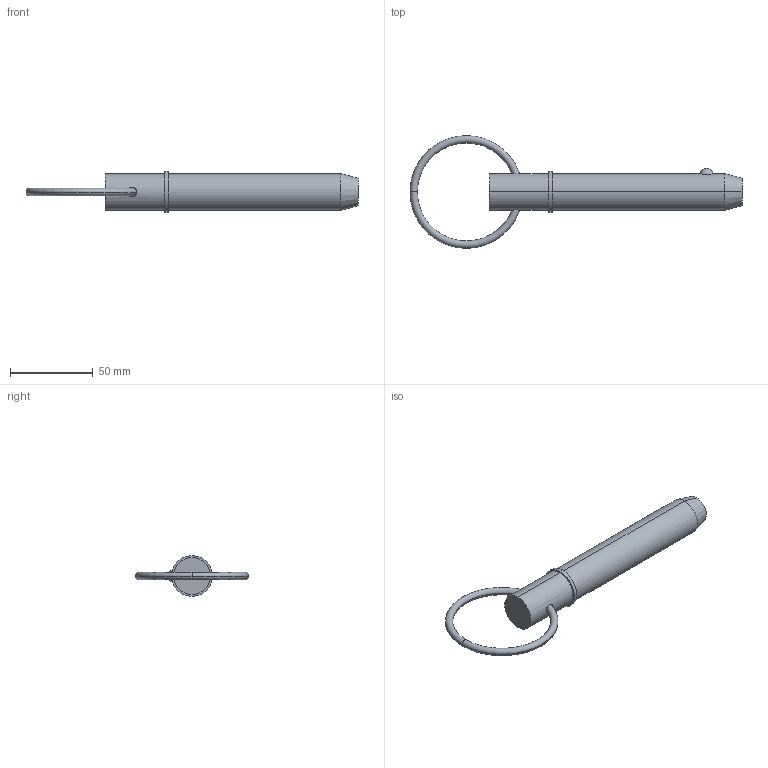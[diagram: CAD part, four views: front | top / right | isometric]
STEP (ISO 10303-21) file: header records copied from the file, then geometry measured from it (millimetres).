
FILE_DESCRIPTION (( 'STEP AP203' ), '1' );
FILE_NAME ('33014.W8835.step', '2024-11-04T08:37:35', ( '' ), ( '' ), 'SwSTEP 2.0', 'SolidWorks 2019', '' );
FILE_SCHEMA (( 'CONFIG_CONTROL_DESIGN' ));
Length unit declared in the file: millimetre
Products named in the file (3): 33014.W8835; Part1_33014.W8835; Part2_33014.W8835
Assembly tree (2 placements, depth 2):
  33014.W8835
    Part1_33014.W8835
    Part2_33014.W8835
Bounding box: 200.01 x 67.95 x 24.45 mm (x, y, z)
Volume: 61063 mm3; surface area: 14521.4 mm2
Topology: 2 solids, 2 shells, 22 faces, 43 edges, 26 vertices
Faces by surface type: torus 8, cylinder 6, plane 4, sphere 2, cone 2
Entity records: 1065 total; most frequent: CARTESIAN_POINT 288, DIRECTION 120, ORIENTED_EDGE 86, AXIS2_PLACEMENT_3D 56, EDGE_CURVE 43, CIRCLE 29, EDGE_LOOP 27, PERSON_AND_ORGANIZATION 26
